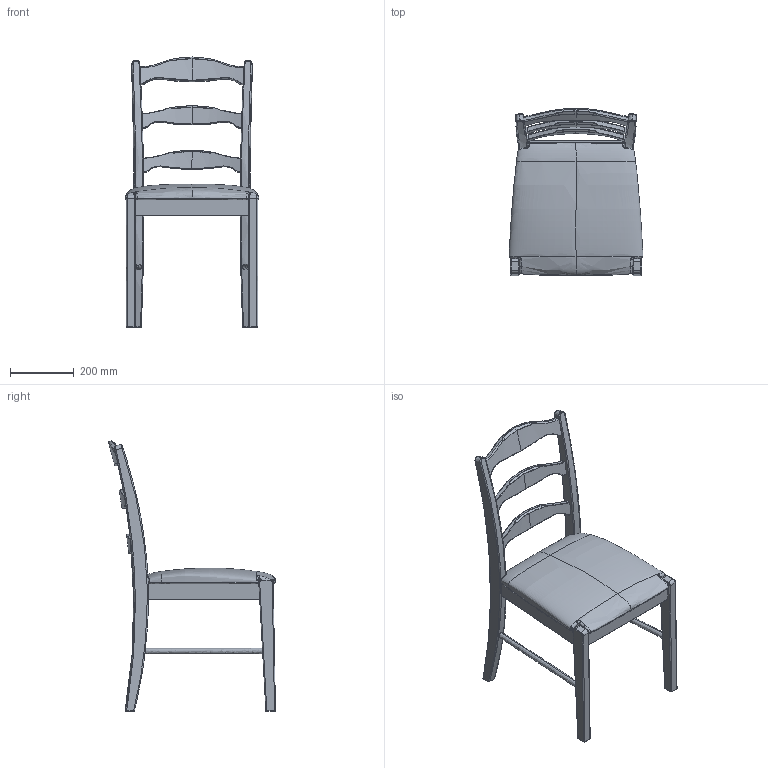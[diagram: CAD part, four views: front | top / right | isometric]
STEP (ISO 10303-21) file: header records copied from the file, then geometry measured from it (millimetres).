
FILE_DESCRIPTION(/* description */ (''),/* implementation_level */ '2;1');
FILE_NAME(/* name */ 'KGQJC8~V',/* time_stamp */ '2020-06-22T19:01:25+09:00',/* author */ (''),/* organization */ (''),/* preprocessor_version */ 'ST-DEVELOPER v15',/* originating_system */ '',/* authorisation */ '');
FILE_SCHEMA (('AUTOMOTIVE_DESIGN'));
Length unit declared in the file: millimetre
Products named in the file (1): Document
Bounding box: 419.99 x 525.3 x 850.26 mm (x, y, z)
Volume: 2310325.3 mm3; surface area: 1050147.6 mm2
Topology: 5 solids, 14 shells, 385 faces, 966 edges, 529 vertices
Faces by surface type: bspline 329, plane 56
Entity records: 47106 total; most frequent: CARTESIAN_POINT 41784, ORIENTED_EDGE 1772, EDGE_CURVE 960, B_SPLINE_CURVE_WITH_KNOTS 595, VERTEX_POINT 529, ADVANCED_FACE 385, FACE_OUTER_BOUND 385, EDGE_LOOP 385
